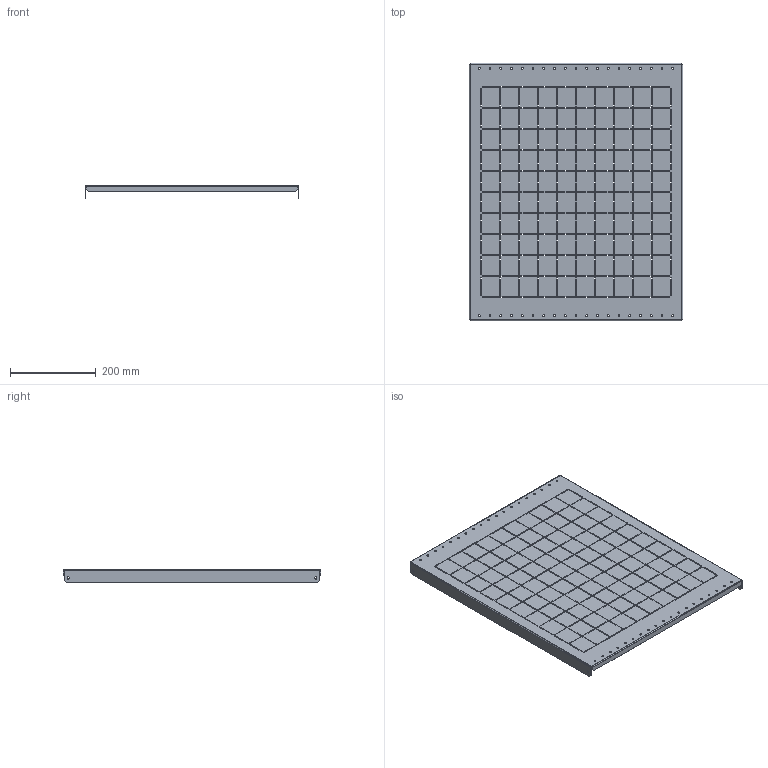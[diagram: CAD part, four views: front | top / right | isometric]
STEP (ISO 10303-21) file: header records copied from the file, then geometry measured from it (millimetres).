
FILE_DESCRIPTION (( 'STEP AP203' ), '1' );
FILE_NAME ('MA1.800.060606.04.01 Ïàíåëè áîêîâûå äëÿ ñåêöèîíèðîâàíèÿ Â600 Ã600 ìì.STEP', '2024-12-02T13:59:57', ( '' ), ( '' ), 'SwSTEP 2.0', 'SolidWorks 2021', '' );
FILE_SCHEMA (( 'CONFIG_CONTROL_DESIGN' ));
Length unit declared in the file: millimetre
Products named in the file (1): MA1.800.060606.04.01 Ïàíåëè áîêîâûå äëÿ ñåêöèîíèðîâàíèÿ Â600 Ã600 ìì
Bounding box: 497 x 600 x 31 mm (x, y, z)
Volume: 487661.5 mm3; surface area: 683003.7 mm2
Topology: 1 solids, 1 shells, 968 faces, 2866 edges, 1900 vertices
Faces by surface type: plane 918, cylinder 50
Full cylindrical faces by diameter (mm): 4.5 x38, 5.5 x4
Entity records: 32629 total; most frequent: CARTESIAN_POINT 5693, ORIENTED_EDGE 5648, DIRECTION 4862, EDGE_CURVE 2824, VECTOR 2724, LINE 2724, VERTEX_POINT 1900, EDGE_LOOP 1534
